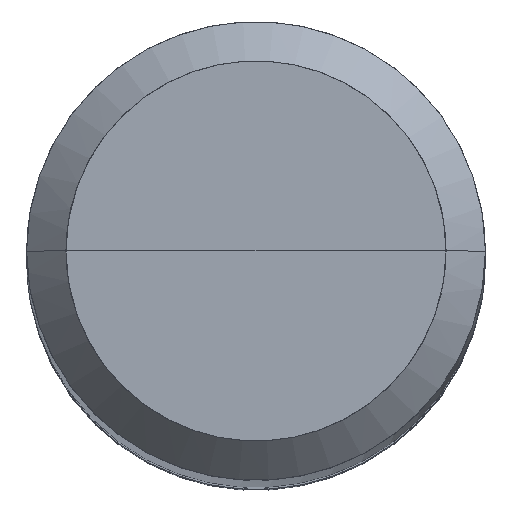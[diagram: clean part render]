
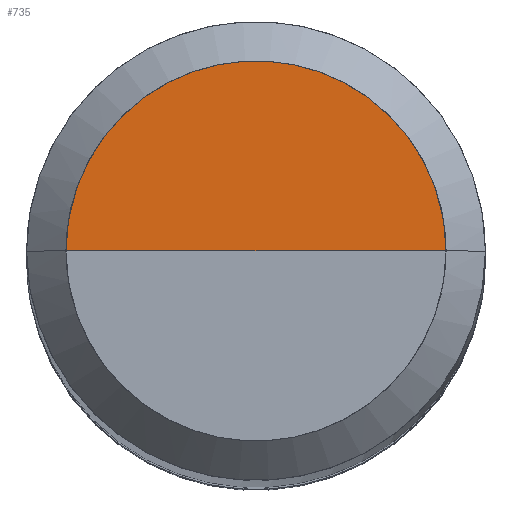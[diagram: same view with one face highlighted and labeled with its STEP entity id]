
A CAD part, top view. The second image highlights one B-rep face of the part: STEP entity #735.
In plain terms, the highlighted free-form (B-spline) face has degree [1, 2] with [2, 5] control points.
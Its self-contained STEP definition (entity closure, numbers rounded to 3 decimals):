
#490=CARTESIAN_POINT('',(5.8,0.0,123.134));
#491=CARTESIAN_POINT('',(5.8,5.8,123.134));
#492=CARTESIAN_POINT('',(0.0,5.8,123.134));
#493=CARTESIAN_POINT('',(-5.8,5.8,123.134));
#494=CARTESIAN_POINT('',(-5.8,0.0,123.134));
#495=CARTESIAN_POINT('',(0.0,0.0,123.134));
#720=(
BOUNDED_SURFACE()
B_SPLINE_SURFACE(1,2,(
(#490,#491,#492,#493,#494),
(#495,#495,#495,#495,#495)
), .UNSPECIFIED.,.F.,.F.,.F.)
B_SPLINE_SURFACE_WITH_KNOTS((2,2),(3,2,3),(
0.0,1.0),(
0.0,0.5,1.0), .UNSPECIFIED.)
GEOMETRIC_REPRESENTATION_ITEM()
RATIONAL_B_SPLINE_SURFACE(((1.0,0.707,1.0,0.707,1.0),
(1.0,0.707,1.0,0.707,1.0)
))
REPRESENTATION_ITEM('')
SURFACE()
);
#721=(
BOUNDED_CURVE()
B_SPLINE_CURVE(2,(#494,#493,#492,#491,#490),.UNSPECIFIED.,.F.,.F.)
B_SPLINE_CURVE_WITH_KNOTS((3,2,3),
(0.0,0.5,1.0),.UNSPECIFIED.)
CURVE()
GEOMETRIC_REPRESENTATION_ITEM()
RATIONAL_B_SPLINE_CURVE((1.0,0.707,1.0,0.707,1.0))
REPRESENTATION_ITEM('')
);
#722=(
BOUNDED_CURVE()
B_SPLINE_CURVE(1,(#490,#495),.UNSPECIFIED.,.F.,.F.)
B_SPLINE_CURVE_WITH_KNOTS((2,2),
(0.0,1.0),.UNSPECIFIED.)
CURVE()
GEOMETRIC_REPRESENTATION_ITEM()
RATIONAL_B_SPLINE_CURVE((1.0,1.0))
REPRESENTATION_ITEM('')
);
#723=(
BOUNDED_CURVE()
B_SPLINE_CURVE(1,(#495,#494),.UNSPECIFIED.,.F.,.F.)
B_SPLINE_CURVE_WITH_KNOTS((2,2),
(0.0,1.0),.UNSPECIFIED.)
CURVE()
GEOMETRIC_REPRESENTATION_ITEM()
RATIONAL_B_SPLINE_CURVE((1.0,1.0))
REPRESENTATION_ITEM('')
);
#724=VERTEX_POINT('',#490);
#725=VERTEX_POINT('',#494);
#726=VERTEX_POINT('',#495);
#727=EDGE_CURVE('',#725,#724,#721,.T.);
#728=EDGE_CURVE('',#724,#726,#722,.T.);
#729=EDGE_CURVE('',#726,#725,#723,.T.);
#730=ORIENTED_EDGE('',*,*,#727,.T.);
#731=ORIENTED_EDGE('',*,*,#728,.T.);
#732=ORIENTED_EDGE('',*,*,#729,.T.);
#733=EDGE_LOOP('',(#730,#731,#732));
#734=FACE_OUTER_BOUND('',#733,.T.);
#735=ADVANCED_FACE('',(#734),#720,.T.);
